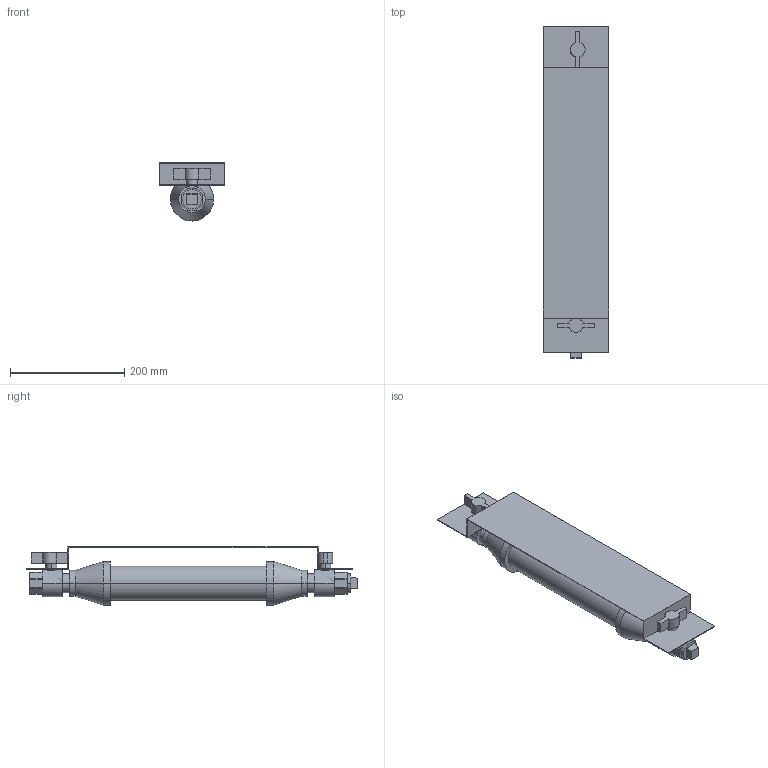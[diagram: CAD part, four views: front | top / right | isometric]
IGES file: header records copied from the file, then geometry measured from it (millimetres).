
Start section: SolidWorks IGES file using analytic representation for surfaces
Global section: file name: R:\AGF Eng Product Details\M5100 - COLLECTanDRAIN\Drawings\Website\M5200A.IGS; native system: SolidWorks 2013; preprocessor: SolidWorks 2013; author: RReed; date: 130221.144154; units: inch
Bounding box: 114.3 x 580.9 x 101.6 mm (x, y, z)
Volume: 783746.8 mm3; surface area: 343141.1 mm2
Topology: 4 solids, 4 shells, 123 faces, 290 edges, 188 vertices
Faces by surface type: plane 65, revolution 58
